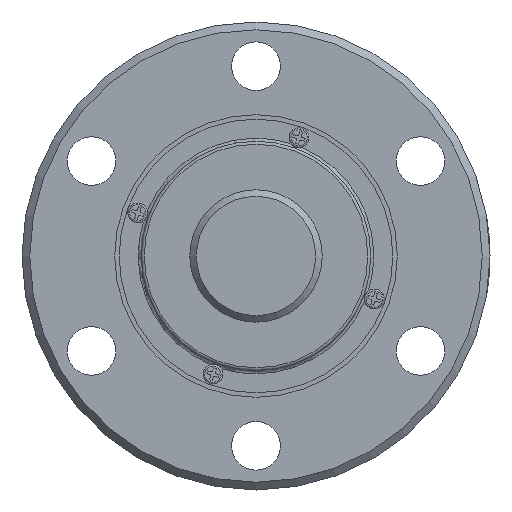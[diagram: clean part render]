
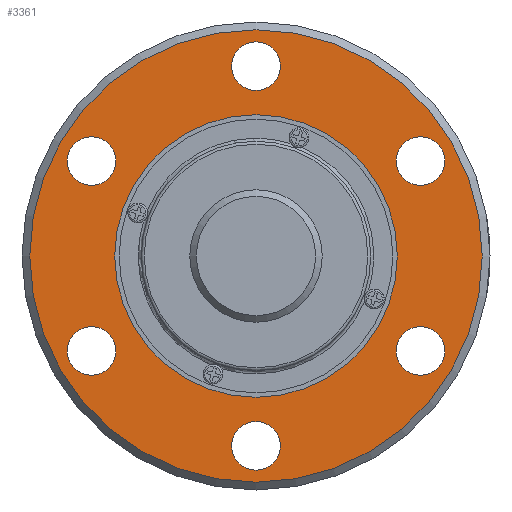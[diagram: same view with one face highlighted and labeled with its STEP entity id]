
A CAD part, left-side view. The second image highlights one B-rep face of the part: STEP entity #3361.
In plain terms, the highlighted planar face has unit normal (-1, 0, 0).
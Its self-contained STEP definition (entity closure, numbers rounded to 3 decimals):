
#708=PLANE('',#3633);
#901=ORIENTED_EDGE('',*,*,#1818,.T.);
#902=ORIENTED_EDGE('',*,*,#1819,.T.);
#903=ORIENTED_EDGE('',*,*,#1820,.T.);
#904=ORIENTED_EDGE('',*,*,#1821,.T.);
#905=ORIENTED_EDGE('',*,*,#1822,.T.);
#906=ORIENTED_EDGE('',*,*,#1823,.T.);
#907=ORIENTED_EDGE('',*,*,#1824,.T.);
#908=ORIENTED_EDGE('',*,*,#1817,.F.);
#1817=EDGE_CURVE('',#2284,#2284,#2613,.T.);
#1818=EDGE_CURVE('',#2285,#2285,#2614,.T.);
#1819=EDGE_CURVE('',#2286,#2286,#2615,.T.);
#1820=EDGE_CURVE('',#2287,#2287,#2616,.T.);
#1821=EDGE_CURVE('',#2288,#2288,#2617,.T.);
#1822=EDGE_CURVE('',#2289,#2289,#2618,.T.);
#1823=EDGE_CURVE('',#2290,#2290,#2619,.T.);
#1824=EDGE_CURVE('',#2291,#2291,#2620,.T.);
#2284=VERTEX_POINT('',#5103);
#2285=VERTEX_POINT('',#5106);
#2286=VERTEX_POINT('',#5108);
#2287=VERTEX_POINT('',#5110);
#2288=VERTEX_POINT('',#5112);
#2289=VERTEX_POINT('',#5114);
#2290=VERTEX_POINT('',#5116);
#2291=VERTEX_POINT('',#5118);
#2613=CIRCLE('',#3632,25.617);
#2614=CIRCLE('',#3634,16.);
#2615=CIRCLE('',#3635,2.75);
#2616=CIRCLE('',#3636,2.75);
#2617=CIRCLE('',#3637,2.75);
#2618=CIRCLE('',#3638,2.75);
#2619=CIRCLE('',#3639,2.75);
#2620=CIRCLE('',#3640,2.75);
#2769=EDGE_LOOP('',(#901));
#2770=EDGE_LOOP('',(#902));
#2771=EDGE_LOOP('',(#903));
#2772=EDGE_LOOP('',(#904));
#2773=EDGE_LOOP('',(#905));
#2774=EDGE_LOOP('',(#906));
#2775=EDGE_LOOP('',(#907));
#2776=EDGE_LOOP('',(#908));
#3051=FACE_BOUND('',#2769,.T.);
#3052=FACE_BOUND('',#2770,.T.);
#3053=FACE_BOUND('',#2771,.T.);
#3054=FACE_BOUND('',#2772,.T.);
#3055=FACE_BOUND('',#2773,.T.);
#3056=FACE_BOUND('',#2774,.T.);
#3057=FACE_BOUND('',#2775,.T.);
#3058=FACE_BOUND('',#2776,.T.);
#3361=ADVANCED_FACE('',(#3051,#3052,#3053,#3054,#3055,#3056,#3057,#3058),
#708,.T.);
#3632=AXIS2_PLACEMENT_3D('',#5102,#4047,#4048);
#3633=AXIS2_PLACEMENT_3D('',#5104,#4049,#4050);
#3634=AXIS2_PLACEMENT_3D('',#5105,#4051,#4052);
#3635=AXIS2_PLACEMENT_3D('',#5107,#4053,#4054);
#3636=AXIS2_PLACEMENT_3D('',#5109,#4055,#4056);
#3637=AXIS2_PLACEMENT_3D('',#5111,#4057,#4058);
#3638=AXIS2_PLACEMENT_3D('',#5113,#4059,#4060);
#3639=AXIS2_PLACEMENT_3D('',#5115,#4061,#4062);
#3640=AXIS2_PLACEMENT_3D('',#5117,#4063,#4064);
#4047=DIRECTION('',(1.,0.,0.));
#4048=DIRECTION('',(0.,0.,-1.));
#4049=DIRECTION('',(-1.,0.,0.));
#4050=DIRECTION('',(0.,0.,1.));
#4051=DIRECTION('',(1.,0.,0.));
#4052=DIRECTION('',(0.,0.,-1.));
#4053=DIRECTION('',(1.,0.,0.));
#4054=DIRECTION('',(0.,0.,-1.));
#4055=DIRECTION('',(1.,0.,0.));
#4056=DIRECTION('',(0.,0.,-1.));
#4057=DIRECTION('',(1.,0.,0.));
#4058=DIRECTION('',(0.,0.,-1.));
#4059=DIRECTION('',(1.,0.,0.));
#4060=DIRECTION('',(0.,0.,-1.));
#4061=DIRECTION('',(1.,0.,0.));
#4062=DIRECTION('',(0.,0.,-1.));
#4063=DIRECTION('',(1.,0.,0.));
#4064=DIRECTION('',(0.,0.,-1.));
#5102=CARTESIAN_POINT('',(6.,0.,0.));
#5103=CARTESIAN_POINT('',(6.,0.,-25.617));
#5104=CARTESIAN_POINT('',(6.,25.617,0.));
#5105=CARTESIAN_POINT('',(6.,0.,0.));
#5106=CARTESIAN_POINT('',(6.,0.,-16.));
#5107=CARTESIAN_POINT('',(6.,0.,21.5));
#5108=CARTESIAN_POINT('',(6.,0.,18.75));
#5109=CARTESIAN_POINT('',(6.,-18.62,10.75));
#5110=CARTESIAN_POINT('',(6.,-18.62,8.));
#5111=CARTESIAN_POINT('',(6.,-18.62,-10.75));
#5112=CARTESIAN_POINT('',(6.,-18.62,-13.5));
#5113=CARTESIAN_POINT('',(6.,0.,-21.5));
#5114=CARTESIAN_POINT('',(6.,0.,-24.25));
#5115=CARTESIAN_POINT('',(6.,18.62,-10.75));
#5116=CARTESIAN_POINT('',(6.,18.62,-13.5));
#5117=CARTESIAN_POINT('',(6.,18.62,10.75));
#5118=CARTESIAN_POINT('',(6.,18.62,8.));
